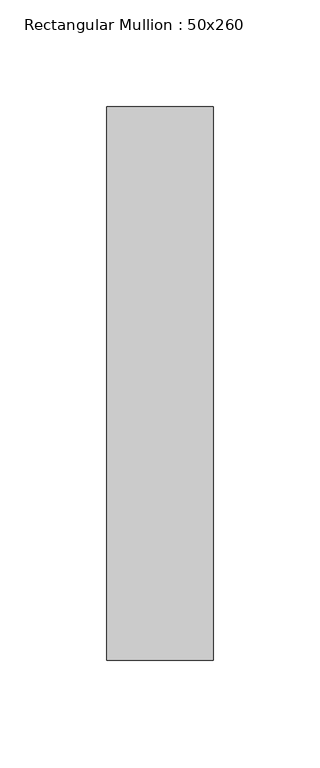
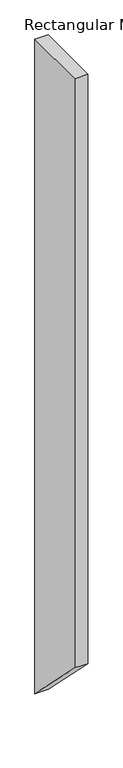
"""IFC4 building model written with IfcOpenShell, lengths in millimetres: member geometry, Rectangular Mullion : 50x260."""

from ifc_helpers import new_model, si_unit, frame, origin, place, context, project, spatial, polyline, outline, extrude, source, transform, mapped, element, save


def rectangular_mullion_50x260_3e58aeae(model_context):
    return source(origin(), model_context, "Body", "SweptSolid", [
        extrude(outline(polyline([(-130.0, 0.0), (130.0, 0.0), (130.0, -2609.7841735), (-130.0, -2349.7841735), (-130.0, 0.0)])), frame((-50.0, 0.0, 0.0), z_axis=(1.0, 0.0, 0.0), x_axis=(0.0, 1.0, 0.0)), (0.0, 0.0, 1.0), 50.0),
    ])


if __name__ == "__main__":
    model = new_model("IFC4")
    model_context = context("Model", 3, world=origin())
    ifc_project = project(units=[si_unit("LENGTHUNIT", "METRE", prefix="MILLI")], contexts=[model_context])
    site = spatial("IfcSite", under=ifc_project)
    building = spatial("IfcBuilding", under=site)
    placement = place(None, origin())
    rectangular_mullion_50x260_shape = rectangular_mullion_50x260_3e58aeae(model_context)
    element("IfcMember", 1, ObjectType="Rectangular Mullion : 50x260", at=placement, inside=building, context=model_context, shape_type="MappedRepresentation", body=[
        mapped(rectangular_mullion_50x260_shape, transform((0.0, 0.0, 0.0), x_axis=(1.0, 0.0, 0.0), y_axis=(0.0, 1.0, 0.0), z_axis=(0.0, 0.0, 1.0))),
    ])
    save(model, "model.ifc")
